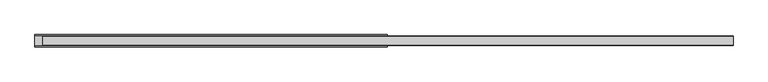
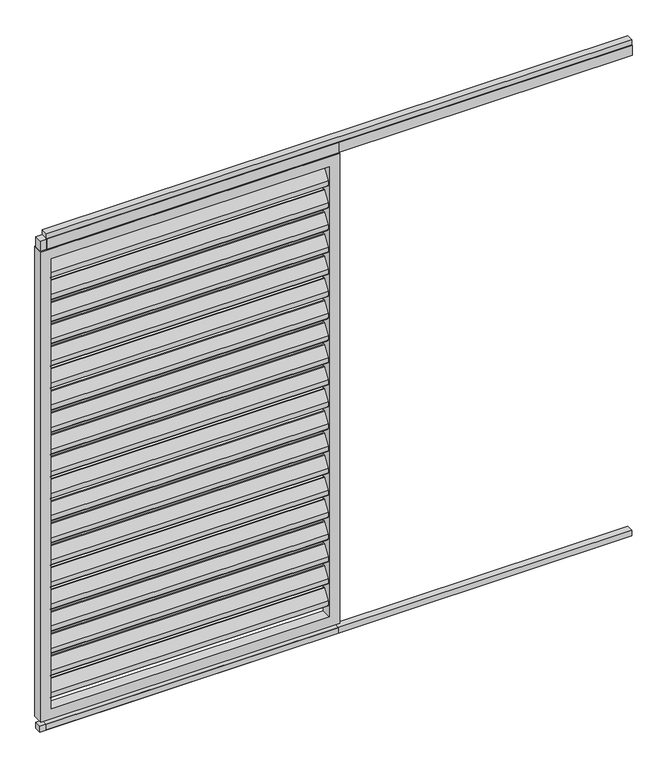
"""IFC4 building model written with IfcOpenShell, lengths in millimetres: proxy geometry, Renson_Algarve_Loggia_Paro_Aluminium : Renson_Algarve_Loggia_Paro_Aluminium."""

from ifc_helpers import new_model, si_unit, point, frame, frame_2d, origin, origin_with_axes, place, context, project, spatial, polyline, circle_curve, trimmed, segment, composite_curve, outline, extrude, source, transform, mapped, element, save


def generic_models_23aa06c6(model_context):
    return source(origin(), model_context, "Body", "SweptSolid", [
        extrude(outline(composite_curve([segment(trimmed(circle_curve(frame_2d((12.6675921, 1892.6587719)), 3.0), [point((10.1515804, 1894.292689))], [point((15.6675921, 1892.6587719))], False, "CARTESIAN"), True, "CONTINUOUS"), segment(polyline([(15.6675921, 1892.6587719), (15.6675921, 1874.2979873)]), True, "CONTINUOUS"), segment(trimmed(circle_curve(frame_2d((12.6675921, 1874.2979873)), 3.0), [point((15.6675921, 1874.2979873))], [point((15.1836038, 1872.6640702))], False, "CARTESIAN"), True, "CONTINUOUS"), segment(polyline([(15.1836038, 1872.6640702), (-8.8163962, 1835.707311)]), True, "CONTINUOUS"), segment(trimmed(circle_curve(frame_2d((-11.3324079, 1837.3412281)), 3.0), [point((-8.8163962, 1835.707311))], [point((-14.3324079, 1837.3412281))], False, "CARTESIAN"), True, "CONTINUOUS"), segment(polyline([(-14.3324079, 1837.3412281), (-14.3324079, 1856.5906532), (10.1515804, 1894.292689)]), True, "CONTINUOUS")], self_intersect=False)), frame((-535.0, 0.0, 0.0), z_axis=(1.0, 0.0, 0.0), x_axis=(0.0, 1.0, 0.0)), (0.0, 0.0, 1.0), 1070.0),
        extrude(outline(composite_curve([segment(trimmed(circle_curve(frame_2d((12.6675921, 1802.6587719)), 3.0), [point((10.1515804, 1804.292689))], [point((15.6675921, 1802.6587719))], False, "CARTESIAN"), True, "CONTINUOUS"), segment(polyline([(15.6675921, 1802.6587719), (15.6675921, 1784.2979873)]), True, "CONTINUOUS"), segment(trimmed(circle_curve(frame_2d((12.6675921, 1784.2979873)), 3.0), [point((15.6675921, 1784.2979873))], [point((15.1836038, 1782.6640702))], False, "CARTESIAN"), True, "CONTINUOUS"), segment(polyline([(15.1836038, 1782.6640702), (-8.8163962, 1745.707311)]), True, "CONTINUOUS"), segment(trimmed(circle_curve(frame_2d((-11.3324079, 1747.3412281)), 3.0), [point((-8.8163962, 1745.707311))], [point((-14.3324079, 1747.3412281))], False, "CARTESIAN"), True, "CONTINUOUS"), segment(polyline([(-14.3324079, 1747.3412281), (-14.3324079, 1766.5906532), (10.1515804, 1804.292689)]), True, "CONTINUOUS")], self_intersect=False)), frame((-535.0, 0.0, 0.0), z_axis=(1.0, 0.0, 0.0), x_axis=(0.0, 1.0, 0.0)), (0.0, 0.0, 1.0), 1070.0),
        extrude(outline(composite_curve([segment(trimmed(circle_curve(frame_2d((12.6675921, 1712.6587719)), 3.0), [point((10.1515804, 1714.292689))], [point((15.6675921, 1712.6587719))], False, "CARTESIAN"), True, "CONTINUOUS"), segment(polyline([(15.6675921, 1712.6587719), (15.6675921, 1694.2979873)]), True, "CONTINUOUS"), segment(trimmed(circle_curve(frame_2d((12.6675921, 1694.2979873)), 3.0), [point((15.6675921, 1694.2979873))], [point((15.1836038, 1692.6640702))], False, "CARTESIAN"), True, "CONTINUOUS"), segment(polyline([(15.1836038, 1692.6640702), (-8.8163962, 1655.707311)]), True, "CONTINUOUS"), segment(trimmed(circle_curve(frame_2d((-11.3324079, 1657.3412281)), 3.0), [point((-8.8163962, 1655.707311))], [point((-14.3324079, 1657.3412281))], False, "CARTESIAN"), True, "CONTINUOUS"), segment(polyline([(-14.3324079, 1657.3412281), (-14.3324079, 1676.5906532), (10.1515804, 1714.292689)]), True, "CONTINUOUS")], self_intersect=False)), frame((-535.0, 0.0, 0.0), z_axis=(1.0, 0.0, 0.0), x_axis=(0.0, 1.0, 0.0)), (0.0, 0.0, 1.0), 1070.0),
        extrude(outline(composite_curve([segment(trimmed(circle_curve(frame_2d((12.6675921, 1622.6587719)), 3.0), [point((10.1515804, 1624.292689))], [point((15.6675921, 1622.6587719))], False, "CARTESIAN"), True, "CONTINUOUS"), segment(polyline([(15.6675921, 1622.6587719), (15.6675921, 1604.2979873)]), True, "CONTINUOUS"), segment(trimmed(circle_curve(frame_2d((12.6675921, 1604.2979873)), 3.0), [point((15.6675921, 1604.2979873))], [point((15.1836038, 1602.6640702))], False, "CARTESIAN"), True, "CONTINUOUS"), segment(polyline([(15.1836038, 1602.6640702), (-8.8163962, 1565.707311)]), True, "CONTINUOUS"), segment(trimmed(circle_curve(frame_2d((-11.3324079, 1567.3412281)), 3.0), [point((-8.8163962, 1565.707311))], [point((-14.3324079, 1567.3412281))], False, "CARTESIAN"), True, "CONTINUOUS"), segment(polyline([(-14.3324079, 1567.3412281), (-14.3324079, 1586.5906532), (10.1515804, 1624.292689)]), True, "CONTINUOUS")], self_intersect=False)), frame((-535.0, 0.0, 0.0), z_axis=(1.0, 0.0, 0.0), x_axis=(0.0, 1.0, 0.0)), (0.0, 0.0, 1.0), 1070.0),
        extrude(outline(composite_curve([segment(trimmed(circle_curve(frame_2d((12.6675921, 1532.6587719)), 3.0), [point((10.1515804, 1534.292689))], [point((15.6675921, 1532.6587719))], False, "CARTESIAN"), True, "CONTINUOUS"), segment(polyline([(15.6675921, 1532.6587719), (15.6675921, 1514.2979873)]), True, "CONTINUOUS"), segment(trimmed(circle_curve(frame_2d((12.6675921, 1514.2979873)), 3.0), [point((15.6675921, 1514.2979873))], [point((15.1836038, 1512.6640702))], False, "CARTESIAN"), True, "CONTINUOUS"), segment(polyline([(15.1836038, 1512.6640702), (-8.8163962, 1475.707311)]), True, "CONTINUOUS"), segment(trimmed(circle_curve(frame_2d((-11.3324079, 1477.3412281)), 3.0), [point((-8.8163962, 1475.707311))], [point((-14.3324079, 1477.3412281))], False, "CARTESIAN"), True, "CONTINUOUS"), segment(polyline([(-14.3324079, 1477.3412281), (-14.3324079, 1496.5906532), (10.1515804, 1534.292689)]), True, "CONTINUOUS")], self_intersect=False)), frame((-535.0, 0.0, 0.0), z_axis=(1.0, 0.0, 0.0), x_axis=(0.0, 1.0, 0.0)), (0.0, 0.0, 1.0), 1070.0),
        extrude(outline(composite_curve([segment(trimmed(circle_curve(frame_2d((12.6675921, 1442.6587719)), 3.0), [point((10.1515804, 1444.292689))], [point((15.6675921, 1442.6587719))], False, "CARTESIAN"), True, "CONTINUOUS"), segment(polyline([(15.6675921, 1442.6587719), (15.6675921, 1424.2979873)]), True, "CONTINUOUS"), segment(trimmed(circle_curve(frame_2d((12.6675921, 1424.2979873)), 3.0), [point((15.6675921, 1424.2979873))], [point((15.1836038, 1422.6640702))], False, "CARTESIAN"), True, "CONTINUOUS"), segment(polyline([(15.1836038, 1422.6640702), (-8.8163962, 1385.707311)]), True, "CONTINUOUS"), segment(trimmed(circle_curve(frame_2d((-11.3324079, 1387.3412281)), 3.0), [point((-8.8163962, 1385.707311))], [point((-14.3324079, 1387.3412281))], False, "CARTESIAN"), True, "CONTINUOUS"), segment(polyline([(-14.3324079, 1387.3412281), (-14.3324079, 1406.5906532), (10.1515804, 1444.292689)]), True, "CONTINUOUS")], self_intersect=False)), frame((-535.0, 0.0, 0.0), z_axis=(1.0, 0.0, 0.0), x_axis=(0.0, 1.0, 0.0)), (0.0, 0.0, 1.0), 1070.0),
        extrude(outline(composite_curve([segment(trimmed(circle_curve(frame_2d((12.6675921, 1352.6587719)), 3.0), [point((10.1515804, 1354.292689))], [point((15.6675921, 1352.6587719))], False, "CARTESIAN"), True, "CONTINUOUS"), segment(polyline([(15.6675921, 1352.6587719), (15.6675921, 1334.2979873)]), True, "CONTINUOUS"), segment(trimmed(circle_curve(frame_2d((12.6675921, 1334.2979873)), 3.0), [point((15.6675921, 1334.2979873))], [point((15.1836038, 1332.6640702))], False, "CARTESIAN"), True, "CONTINUOUS"), segment(polyline([(15.1836038, 1332.6640702), (-8.8163962, 1295.707311)]), True, "CONTINUOUS"), segment(trimmed(circle_curve(frame_2d((-11.3324079, 1297.3412281)), 3.0), [point((-8.8163962, 1295.707311))], [point((-14.3324079, 1297.3412281))], False, "CARTESIAN"), True, "CONTINUOUS"), segment(polyline([(-14.3324079, 1297.3412281), (-14.3324079, 1316.5906532), (10.1515804, 1354.292689)]), True, "CONTINUOUS")], self_intersect=False)), frame((-535.0, 0.0, 0.0), z_axis=(1.0, 0.0, 0.0), x_axis=(0.0, 1.0, 0.0)), (0.0, 0.0, 1.0), 1070.0),
        extrude(outline(composite_curve([segment(trimmed(circle_curve(frame_2d((12.6675921, 1262.6587719)), 3.0), [point((10.1515804, 1264.292689))], [point((15.6675921, 1262.6587719))], False, "CARTESIAN"), True, "CONTINUOUS"), segment(polyline([(15.6675921, 1262.6587719), (15.6675921, 1244.2979873)]), True, "CONTINUOUS"), segment(trimmed(circle_curve(frame_2d((12.6675921, 1244.2979873)), 3.0), [point((15.6675921, 1244.2979873))], [point((15.1836038, 1242.6640702))], False, "CARTESIAN"), True, "CONTINUOUS"), segment(polyline([(15.1836038, 1242.6640702), (-8.8163962, 1205.707311)]), True, "CONTINUOUS"), segment(trimmed(circle_curve(frame_2d((-11.3324079, 1207.3412281)), 3.0), [point((-8.8163962, 1205.707311))], [point((-14.3324079, 1207.3412281))], False, "CARTESIAN"), True, "CONTINUOUS"), segment(polyline([(-14.3324079, 1207.3412281), (-14.3324079, 1226.5906532), (10.1515804, 1264.292689)]), True, "CONTINUOUS")], self_intersect=False)), frame((-535.0, 0.0, 0.0), z_axis=(1.0, 0.0, 0.0), x_axis=(0.0, 1.0, 0.0)), (0.0, 0.0, 1.0), 1070.0),
        extrude(outline(composite_curve([segment(trimmed(circle_curve(frame_2d((12.6675921, 1172.6587719)), 3.0), [point((10.1515804, 1174.292689))], [point((15.6675921, 1172.6587719))], False, "CARTESIAN"), True, "CONTINUOUS"), segment(polyline([(15.6675921, 1172.6587719), (15.6675921, 1154.2979873)]), True, "CONTINUOUS"), segment(trimmed(circle_curve(frame_2d((12.6675921, 1154.2979873)), 3.0), [point((15.6675921, 1154.2979873))], [point((15.1836038, 1152.6640702))], False, "CARTESIAN"), True, "CONTINUOUS"), segment(polyline([(15.1836038, 1152.6640702), (-8.8163962, 1115.707311)]), True, "CONTINUOUS"), segment(trimmed(circle_curve(frame_2d((-11.3324079, 1117.3412281)), 3.0), [point((-8.8163962, 1115.707311))], [point((-14.3324079, 1117.3412281))], False, "CARTESIAN"), True, "CONTINUOUS"), segment(polyline([(-14.3324079, 1117.3412281), (-14.3324079, 1136.5906532), (10.1515804, 1174.292689)]), True, "CONTINUOUS")], self_intersect=False)), frame((-535.0, 0.0, 0.0), z_axis=(1.0, 0.0, 0.0), x_axis=(0.0, 1.0, 0.0)), (0.0, 0.0, 1.0), 1070.0),
        extrude(outline(composite_curve([segment(trimmed(circle_curve(frame_2d((12.6675921, 1082.6587719)), 3.0), [point((10.1515804, 1084.292689))], [point((15.6675921, 1082.6587719))], False, "CARTESIAN"), True, "CONTINUOUS"), segment(polyline([(15.6675921, 1082.6587719), (15.6675921, 1064.2979873)]), True, "CONTINUOUS"), segment(trimmed(circle_curve(frame_2d((12.6675921, 1064.2979873)), 3.0), [point((15.6675921, 1064.2979873))], [point((15.1836038, 1062.6640702))], False, "CARTESIAN"), True, "CONTINUOUS"), segment(polyline([(15.1836038, 1062.6640702), (-8.8163962, 1025.707311)]), True, "CONTINUOUS"), segment(trimmed(circle_curve(frame_2d((-11.3324079, 1027.3412281)), 3.0), [point((-8.8163962, 1025.707311))], [point((-14.3324079, 1027.3412281))], False, "CARTESIAN"), True, "CONTINUOUS"), segment(polyline([(-14.3324079, 1027.3412281), (-14.3324079, 1046.5906532), (10.1515804, 1084.292689)]), True, "CONTINUOUS")], self_intersect=False)), frame((-535.0, 0.0, 0.0), z_axis=(1.0, 0.0, 0.0), x_axis=(0.0, 1.0, 0.0)), (0.0, 0.0, 1.0), 1070.0),
        extrude(outline(composite_curve([segment(trimmed(circle_curve(frame_2d((12.6675921, 992.6587719)), 3.0), [point((10.1515804, 994.292689))], [point((15.6675921, 992.6587719))], False, "CARTESIAN"), True, "CONTINUOUS"), segment(polyline([(15.6675921, 992.6587719), (15.6675921, 974.2979873)]), True, "CONTINUOUS"), segment(trimmed(circle_curve(frame_2d((12.6675921, 974.2979873)), 3.0), [point((15.6675921, 974.2979873))], [point((15.1836038, 972.6640702))], False, "CARTESIAN"), True, "CONTINUOUS"), segment(polyline([(15.1836038, 972.6640702), (-8.8163962, 935.707311)]), True, "CONTINUOUS"), segment(trimmed(circle_curve(frame_2d((-11.3324079, 937.3412281)), 3.0), [point((-8.8163962, 935.707311))], [point((-14.3324079, 937.3412281))], False, "CARTESIAN"), True, "CONTINUOUS"), segment(polyline([(-14.3324079, 937.3412281), (-14.3324079, 956.5906532), (10.1515804, 994.292689)]), True, "CONTINUOUS")], self_intersect=False)), frame((-535.0, 0.0, 0.0), z_axis=(1.0, 0.0, 0.0), x_axis=(0.0, 1.0, 0.0)), (0.0, 0.0, 1.0), 1070.0),
        extrude(outline(composite_curve([segment(trimmed(circle_curve(frame_2d((12.6675921, 902.6587719)), 3.0), [point((10.1515804, 904.292689))], [point((15.6675921, 902.6587719))], False, "CARTESIAN"), True, "CONTINUOUS"), segment(polyline([(15.6675921, 902.6587719), (15.6675921, 884.2979873)]), True, "CONTINUOUS"), segment(trimmed(circle_curve(frame_2d((12.6675921, 884.2979873)), 3.0), [point((15.6675921, 884.2979873))], [point((15.1836038, 882.6640702))], False, "CARTESIAN"), True, "CONTINUOUS"), segment(polyline([(15.1836038, 882.6640702), (-8.8163962, 845.707311)]), True, "CONTINUOUS"), segment(trimmed(circle_curve(frame_2d((-11.3324079, 847.3412281)), 3.0), [point((-8.8163962, 845.707311))], [point((-14.3324079, 847.3412281))], False, "CARTESIAN"), True, "CONTINUOUS"), segment(polyline([(-14.3324079, 847.3412281), (-14.3324079, 866.5906532), (10.1515804, 904.292689)]), True, "CONTINUOUS")], self_intersect=False)), frame((-535.0, 0.0, 0.0), z_axis=(1.0, 0.0, 0.0), x_axis=(0.0, 1.0, 0.0)), (0.0, 0.0, 1.0), 1070.0),
        extrude(outline(composite_curve([segment(trimmed(circle_curve(frame_2d((12.6675921, 812.6587719)), 3.0), [point((10.1515804, 814.292689))], [point((15.6675921, 812.6587719))], False, "CARTESIAN"), True, "CONTINUOUS"), segment(polyline([(15.6675921, 812.6587719), (15.6675921, 794.2979873)]), True, "CONTINUOUS"), segment(trimmed(circle_curve(frame_2d((12.6675921, 794.2979873)), 3.0), [point((15.6675921, 794.2979873))], [point((15.1836038, 792.6640702))], False, "CARTESIAN"), True, "CONTINUOUS"), segment(polyline([(15.1836038, 792.6640702), (-8.8163962, 755.707311)]), True, "CONTINUOUS"), segment(trimmed(circle_curve(frame_2d((-11.3324079, 757.3412281)), 3.0), [point((-8.8163962, 755.707311))], [point((-14.3324079, 757.3412281))], False, "CARTESIAN"), True, "CONTINUOUS"), segment(polyline([(-14.3324079, 757.3412281), (-14.3324079, 776.5906532), (10.1515804, 814.292689)]), True, "CONTINUOUS")], self_intersect=False)), frame((-535.0, 0.0, 0.0), z_axis=(1.0, 0.0, 0.0), x_axis=(0.0, 1.0, 0.0)), (0.0, 0.0, 1.0), 1070.0),
        extrude(outline(composite_curve([segment(trimmed(circle_curve(frame_2d((12.6675921, 722.6587719)), 3.0), [point((10.1515804, 724.292689))], [point((15.6675921, 722.6587719))], False, "CARTESIAN"), True, "CONTINUOUS"), segment(polyline([(15.6675921, 722.6587719), (15.6675921, 704.2979873)]), True, "CONTINUOUS"), segment(trimmed(circle_curve(frame_2d((12.6675921, 704.2979873)), 3.0), [point((15.6675921, 704.2979873))], [point((15.1836038, 702.6640702))], False, "CARTESIAN"), True, "CONTINUOUS"), segment(polyline([(15.1836038, 702.6640702), (-8.8163962, 665.707311)]), True, "CONTINUOUS"), segment(trimmed(circle_curve(frame_2d((-11.3324079, 667.3412281)), 3.0), [point((-8.8163962, 665.707311))], [point((-14.3324079, 667.3412281))], False, "CARTESIAN"), True, "CONTINUOUS"), segment(polyline([(-14.3324079, 667.3412281), (-14.3324079, 686.5906532), (10.1515804, 724.292689)]), True, "CONTINUOUS")], self_intersect=False)), frame((-535.0, 0.0, 0.0), z_axis=(1.0, 0.0, 0.0), x_axis=(0.0, 1.0, 0.0)), (0.0, 0.0, 1.0), 1070.0),
        extrude(outline(composite_curve([segment(trimmed(circle_curve(frame_2d((12.6675921, 632.6587719)), 3.0), [point((10.1515804, 634.292689))], [point((15.6675921, 632.6587719))], False, "CARTESIAN"), True, "CONTINUOUS"), segment(polyline([(15.6675921, 632.6587719), (15.6675921, 614.2979873)]), True, "CONTINUOUS"), segment(trimmed(circle_curve(frame_2d((12.6675921, 614.2979873)), 3.0), [point((15.6675921, 614.2979873))], [point((15.1836038, 612.6640702))], False, "CARTESIAN"), True, "CONTINUOUS"), segment(polyline([(15.1836038, 612.6640702), (-8.8163962, 575.707311)]), True, "CONTINUOUS"), segment(trimmed(circle_curve(frame_2d((-11.3324079, 577.3412281)), 3.0), [point((-8.8163962, 575.707311))], [point((-14.3324079, 577.3412281))], False, "CARTESIAN"), True, "CONTINUOUS"), segment(polyline([(-14.3324079, 577.3412281), (-14.3324079, 596.5906532), (10.1515804, 634.292689)]), True, "CONTINUOUS")], self_intersect=False)), frame((-535.0, 0.0, 0.0), z_axis=(1.0, 0.0, 0.0), x_axis=(0.0, 1.0, 0.0)), (0.0, 0.0, 1.0), 1070.0),
        extrude(outline(composite_curve([segment(trimmed(circle_curve(frame_2d((12.6675921, 542.6587719)), 3.0), [point((10.1515804, 544.292689))], [point((15.6675921, 542.6587719))], False, "CARTESIAN"), True, "CONTINUOUS"), segment(polyline([(15.6675921, 542.6587719), (15.6675921, 524.2979873)]), True, "CONTINUOUS"), segment(trimmed(circle_curve(frame_2d((12.6675921, 524.2979873)), 3.0), [point((15.6675921, 524.2979873))], [point((15.1836038, 522.6640702))], False, "CARTESIAN"), True, "CONTINUOUS"), segment(polyline([(15.1836038, 522.6640702), (-8.8163962, 485.707311)]), True, "CONTINUOUS"), segment(trimmed(circle_curve(frame_2d((-11.3324079, 487.3412281)), 3.0), [point((-8.8163962, 485.707311))], [point((-14.3324079, 487.3412281))], False, "CARTESIAN"), True, "CONTINUOUS"), segment(polyline([(-14.3324079, 487.3412281), (-14.3324079, 506.5906532), (10.1515804, 544.292689)]), True, "CONTINUOUS")], self_intersect=False)), frame((-535.0, 0.0, 0.0), z_axis=(1.0, 0.0, 0.0), x_axis=(0.0, 1.0, 0.0)), (0.0, 0.0, 1.0), 1070.0),
        extrude(outline(composite_curve([segment(trimmed(circle_curve(frame_2d((12.6675921, 452.6587719)), 3.0), [point((10.1515804, 454.292689))], [point((15.6675921, 452.6587719))], False, "CARTESIAN"), True, "CONTINUOUS"), segment(polyline([(15.6675921, 452.6587719), (15.6675921, 434.2979873)]), True, "CONTINUOUS"), segment(trimmed(circle_curve(frame_2d((12.6675921, 434.2979873)), 3.0), [point((15.6675921, 434.2979873))], [point((15.1836038, 432.6640702))], False, "CARTESIAN"), True, "CONTINUOUS"), segment(polyline([(15.1836038, 432.6640702), (-8.8163962, 395.707311)]), True, "CONTINUOUS"), segment(trimmed(circle_curve(frame_2d((-11.3324079, 397.3412281)), 3.0), [point((-8.8163962, 395.707311))], [point((-14.3324079, 397.3412281))], False, "CARTESIAN"), True, "CONTINUOUS"), segment(polyline([(-14.3324079, 397.3412281), (-14.3324079, 416.5906532), (10.1515804, 454.292689)]), True, "CONTINUOUS")], self_intersect=False)), frame((-535.0, 0.0, 0.0), z_axis=(1.0, 0.0, 0.0), x_axis=(0.0, 1.0, 0.0)), (0.0, 0.0, 1.0), 1070.0),
        extrude(outline(composite_curve([segment(trimmed(circle_curve(frame_2d((12.6675921, 362.6587719)), 3.0), [point((10.1515804, 364.292689))], [point((15.6675921, 362.6587719))], False, "CARTESIAN"), True, "CONTINUOUS"), segment(polyline([(15.6675921, 362.6587719), (15.6675921, 344.2979873)]), True, "CONTINUOUS"), segment(trimmed(circle_curve(frame_2d((12.6675921, 344.2979873)), 3.0), [point((15.6675921, 344.2979873))], [point((15.1836038, 342.6640702))], False, "CARTESIAN"), True, "CONTINUOUS"), segment(polyline([(15.1836038, 342.6640702), (-8.8163962, 305.707311)]), True, "CONTINUOUS"), segment(trimmed(circle_curve(frame_2d((-11.3324079, 307.3412281)), 3.0), [point((-8.8163962, 305.707311))], [point((-14.3324079, 307.3412281))], False, "CARTESIAN"), True, "CONTINUOUS"), segment(polyline([(-14.3324079, 307.3412281), (-14.3324079, 326.5906532), (10.1515804, 364.292689)]), True, "CONTINUOUS")], self_intersect=False)), frame((-535.0, 0.0, 0.0), z_axis=(1.0, 0.0, 0.0), x_axis=(0.0, 1.0, 0.0)), (0.0, 0.0, 1.0), 1070.0),
        extrude(outline(composite_curve([segment(trimmed(circle_curve(frame_2d((12.6675921, 272.6587719)), 3.0), [point((10.1515804, 274.292689))], [point((15.6675921, 272.6587719))], False, "CARTESIAN"), True, "CONTINUOUS"), segment(polyline([(15.6675921, 272.6587719), (15.6675921, 254.2979873)]), True, "CONTINUOUS"), segment(trimmed(circle_curve(frame_2d((12.6675921, 254.2979873)), 3.0), [point((15.6675921, 254.2979873))], [point((15.1836038, 252.6640702))], False, "CARTESIAN"), True, "CONTINUOUS"), segment(polyline([(15.1836038, 252.6640702), (-8.8163962, 215.707311)]), True, "CONTINUOUS"), segment(trimmed(circle_curve(frame_2d((-11.3324079, 217.3412281)), 3.0), [point((-8.8163962, 215.707311))], [point((-14.3324079, 217.3412281))], False, "CARTESIAN"), True, "CONTINUOUS"), segment(polyline([(-14.3324079, 217.3412281), (-14.3324079, 236.5906532), (10.1515804, 274.292689)]), True, "CONTINUOUS")], self_intersect=False)), frame((-535.0, 0.0, 0.0), z_axis=(1.0, 0.0, 0.0), x_axis=(0.0, 1.0, 0.0)), (0.0, 0.0, 1.0), 1070.0),
        extrude(outline(composite_curve([segment(trimmed(circle_curve(frame_2d((12.6675921, 182.6587719)), 3.0), [point((10.1515804, 184.292689))], [point((15.6675921, 182.6587719))], False, "CARTESIAN"), True, "CONTINUOUS"), segment(polyline([(15.6675921, 182.6587719), (15.6675921, 164.2979873)]), True, "CONTINUOUS"), segment(trimmed(circle_curve(frame_2d((12.6675921, 164.2979873)), 3.0), [point((15.6675921, 164.2979873))], [point((15.1836038, 162.6640702))], False, "CARTESIAN"), True, "CONTINUOUS"), segment(polyline([(15.1836038, 162.6640702), (-8.8163962, 125.707311)]), True, "CONTINUOUS"), segment(trimmed(circle_curve(frame_2d((-11.3324079, 127.3412281)), 3.0), [point((-8.8163962, 125.707311))], [point((-14.3324079, 127.3412281))], False, "CARTESIAN"), True, "CONTINUOUS"), segment(polyline([(-14.3324079, 127.3412281), (-14.3324079, 146.5906532), (10.1515804, 184.292689)]), True, "CONTINUOUS")], self_intersect=False)), frame((-535.0, 0.0, 0.0), z_axis=(1.0, 0.0, 0.0), x_axis=(0.0, 1.0, 0.0)), (0.0, 0.0, 1.0), 1070.0),
        extrude(outline(polyline([(1705.0, -13.0), (-550.0, -13.0), (-550.0, 14.0), (1705.0, 14.0), (1705.0, -13.0)])), frame((0.0, 0.0, 2000.0), z_axis=(0.0, 0.0, 1.0), x_axis=(1.0, 0.0, 0.0)), (0.0, 0.0, 1.0), 20.0),
        extrude(outline(polyline([(575.0, 15.0), (575.0, -15.0), (-550.0, -15.0), (-550.0, 15.0), (575.0, 15.0)])), frame((0.0, 0.0, 1957.7138321), z_axis=(0.0, 0.0, 1.0), x_axis=(1.0, 0.0, 0.0)), (0.0, 0.0, 1.0), 42.2861679),
        extrude(outline(polyline([(1705.0, 15.0), (1705.0, -15.0), (-575.0, -15.0), (-575.0, 15.0), (1705.0, 15.0)])), frame((0.0, 0.0, 1957.7138321), z_axis=(0.0, 0.0, 1.0), x_axis=(1.0, 0.0, 0.0)), (0.0, 0.0, 1.0), 42.2861679),
        extrude(outline(polyline([(575.0, -13.0), (-550.0, -13.0), (-550.0, 14.0), (575.0, 14.0), (575.0, -13.0)])), origin_with_axes(), (0.0, 0.0, 1.0), 23.0),
        extrude(outline(polyline([(1705.0, -13.0), (-575.0, -13.0), (-575.0, 14.0), (1705.0, 14.0), (1705.0, -13.0)])), origin_with_axes(), (0.0, 0.0, 1.0), 23.0),
        extrude(outline(polyline([(1957.7138321, -575.0), (45.0, -575.0), (45.0, 575.0), (1957.7138321, 575.0), (1957.7138321, -575.0)]), holes=[polyline([(1917.7138321, 535.0), (85.0, 535.0), (85.0, -535.0), (1917.7138321, -535.0), (1917.7138321, 535.0)])]), frame((0.0, -20.0, 0.0), z_axis=(0.0, 1.0, 0.0), x_axis=(0.0, 0.0, 1.0)), (0.0, 0.0, 1.0), 40.0),
    ])


if __name__ == "__main__":
    model = new_model("IFC4")
    model_context = context("Model", 3, world=origin())
    ifc_project = project(units=[si_unit("LENGTHUNIT", "METRE", prefix="MILLI")], contexts=[model_context])
    site = spatial("IfcSite", under=ifc_project)
    building = spatial("IfcBuilding", under=site)
    placement = place(None, origin())
    generic_models_shape = generic_models_23aa06c6(model_context)
    element("IfcBuildingElementProxy", 1, Name="Renson_Algarve_Loggia_Paro_Aluminium : Renson_Algarve_Loggia_Paro_Aluminium", ObjectType="Renson_Algarve_Loggia_Paro_Aluminium : Renson_Algarve_Loggia_Paro_Aluminium", at=placement, inside=building, context=model_context, shape_type="MappedRepresentation", body=[
        mapped(generic_models_shape, transform((0.0, 0.0, 0.0), x_axis=(1.0, 0.0, 0.0), y_axis=(0.0, 1.0, 0.0), z_axis=(0.0, 0.0, 1.0))),
    ])
    save(model, "model.ifc")
